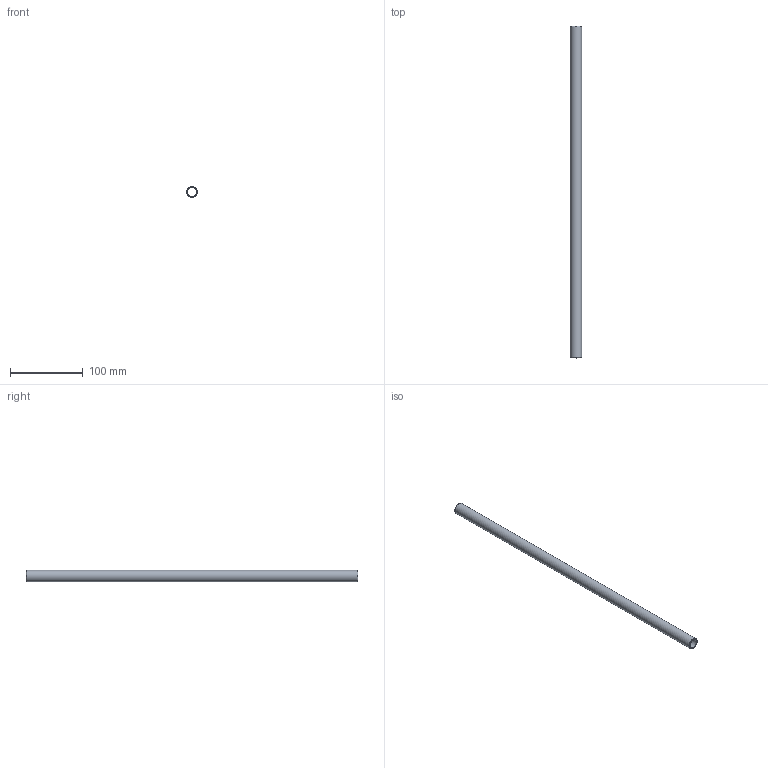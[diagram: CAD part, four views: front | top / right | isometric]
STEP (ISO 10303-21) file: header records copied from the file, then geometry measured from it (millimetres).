
FILE_DESCRIPTION(/* description */ (''),/* implementation_level */ '2;1');
FILE_NAME(/* name */ 'C:/Users/drich/Desktop/625T-18 v1.step',/* time_stamp */ '2019-12-27T17:34:21-06:00',/* author */ (''),/* organization */ (''),/* preprocessor_version */ 'ST-DEVELOPER v18',/* originating_system */ 'Autodesk Translation Framework v8.12.0.6',/* authorisation */ '');
FILE_SCHEMA (('AUTOMOTIVE_DESIGN { 1 0 10303 214 3 1 1 }'));
Length unit declared in the file: inch
Products named in the file (1): 625T-18
Bounding box: 15.73 x 457.2 x 15.73 mm (x, y, z)
Volume: 32064.8 mm3; surface area: 40752.1 mm2
Topology: 1 solids, 1 shells, 6 faces, 14 edges, 10 vertices
Faces by surface type: cone 2, cylinder 2, plane 2
Full cylindrical faces by diameter (mm): 12.573 x1, 15.73 x1
Entity records: 230 total; most frequent: DIRECTION 38, CARTESIAN_POINT 31, ORIENTED_EDGE 28, AXIS2_PLACEMENT_3D 17, EDGE_CURVE 14, CIRCLE 10, VERTEX_POINT 10, EDGE_LOOP 8
